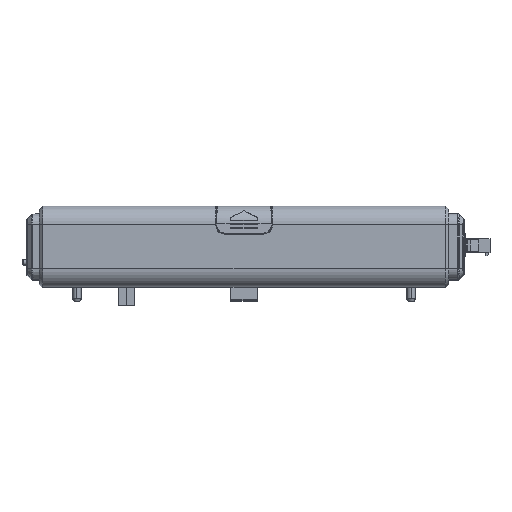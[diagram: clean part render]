
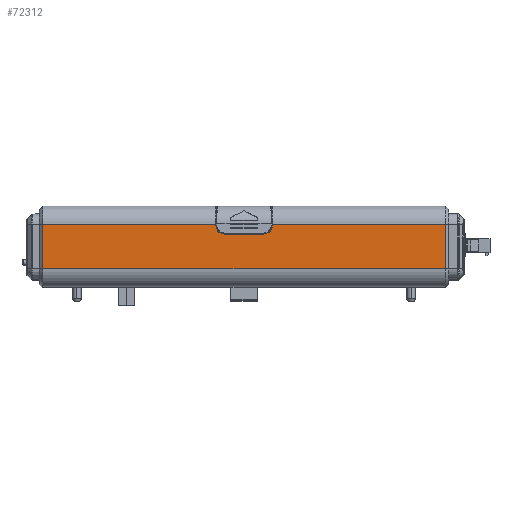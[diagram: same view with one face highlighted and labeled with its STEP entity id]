
A CAD part, top view. The second image highlights one B-rep face of the part: STEP entity #72312.
In plain terms, the highlighted planar face has unit normal (0, 0, 1).
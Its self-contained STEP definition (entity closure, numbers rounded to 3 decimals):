
#13745=DIRECTION('',(0.,-1.,0.));
#13746=VECTOR('',#13745,16.);
#13747=CARTESIAN_POINT('',(145.8,120.2,196.));
#13748=LINE('',#13747,#13746);
#13749=DIRECTION('',(0.,-1.,0.));
#13750=VECTOR('',#13749,0.5);
#13751=CARTESIAN_POINT('',(63.4,120.2,196.));
#13752=LINE('',#13751,#13750);
#13753=CARTESIAN_POINT('',(66.4,119.7,196.));
#13754=DIRECTION('',(0.,0.,1.));
#13755=DIRECTION('',(-1.,0.,0.));
#13756=AXIS2_PLACEMENT_3D('',#13753,#13754,#13755);
#13758=DIRECTION('',(1.,0.,0.));
#13759=VECTOR('',#13758,14.2);
#13760=CARTESIAN_POINT('',(66.4,116.7,196.));
#13761=LINE('',#13760,#13759);
#13762=CARTESIAN_POINT('',(80.6,119.7,196.));
#13763=DIRECTION('',(0.,0.,1.));
#13764=DIRECTION('',(0.,-1.,0.));
#13765=AXIS2_PLACEMENT_3D('',#13762,#13763,#13764);
#13767=DIRECTION('',(0.,1.,0.));
#13768=VECTOR('',#13767,0.5);
#13769=CARTESIAN_POINT('',(83.6,119.7,196.));
#13770=LINE('',#13769,#13768);
#13780=DIRECTION('',(1.,0.,0.));
#13781=VECTOR('',#13780,144.6);
#13782=CARTESIAN_POINT('',(1.2,104.2,196.));
#13783=LINE('',#13782,#13781);
#13797=DIRECTION('',(0.,-1.,0.));
#13798=VECTOR('',#13797,16.);
#13799=CARTESIAN_POINT('',(1.2,120.2,196.));
#13800=LINE('',#13799,#13798);
#13850=DIRECTION('',(-1.,0.,0.));
#13851=VECTOR('',#13850,62.2);
#13852=CARTESIAN_POINT('',(63.4,120.2,196.));
#13853=LINE('',#13852,#13851);
#13867=DIRECTION('',(-1.,0.,0.));
#13868=VECTOR('',#13867,62.2);
#13869=CARTESIAN_POINT('',(145.8,120.2,196.));
#13870=LINE('',#13869,#13868);
#41085=CARTESIAN_POINT('',(145.8,120.2,196.));
#41086=VERTEX_POINT('',#41085);
#41089=CARTESIAN_POINT('',(145.8,104.2,196.));
#41090=VERTEX_POINT('',#41089);
#41521=CARTESIAN_POINT('',(83.6,120.2,196.));
#41522=VERTEX_POINT('',#41521);
#41548=CARTESIAN_POINT('',(63.4,120.2,196.));
#41549=CARTESIAN_POINT('',(63.4,119.7,196.));
#41550=VERTEX_POINT('',#41548);
#41551=VERTEX_POINT('',#41549);
#41625=CARTESIAN_POINT('',(80.6,116.7,196.));
#41626=VERTEX_POINT('',#41625);
#41627=CARTESIAN_POINT('',(83.6,119.7,196.));
#41628=VERTEX_POINT('',#41627);
#41629=CARTESIAN_POINT('',(66.4,116.7,196.));
#41630=VERTEX_POINT('',#41629);
#41631=CARTESIAN_POINT('',(1.2,104.2,196.));
#41632=VERTEX_POINT('',#41631);
#41633=CARTESIAN_POINT('',(1.2,120.2,196.));
#41634=VERTEX_POINT('',#41633);
#72290=CARTESIAN_POINT('',(73.5,112.2,196.));
#72291=DIRECTION('',(0.,0.,1.));
#72292=DIRECTION('',(0.,-1.,0.));
#72293=AXIS2_PLACEMENT_3D('',#72290,#72291,#72292);
#72294=PLANE('',#72293);
#72295=ORIENTED_EDGE('',*,*,#67033,.T.);
#72297=ORIENTED_EDGE('',*,*,#72296,.F.);
#72299=ORIENTED_EDGE('',*,*,#72298,.F.);
#72301=ORIENTED_EDGE('',*,*,#72300,.F.);
#72302=ORIENTED_EDGE('',*,*,#69424,.T.);
#72304=ORIENTED_EDGE('',*,*,#72303,.T.);
#72305=ORIENTED_EDGE('',*,*,#72282,.T.);
#72306=ORIENTED_EDGE('',*,*,#72271,.T.);
#72307=ORIENTED_EDGE('',*,*,#69370,.T.);
#72309=ORIENTED_EDGE('',*,*,#72308,.F.);
#72310=EDGE_LOOP('',(#72295,#72297,#72299,#72301,#72302,#72304,#72305,#72306,
#72307,#72309));
#72311=FACE_OUTER_BOUND('',#72310,.F.);
#72312=ADVANCED_FACE('',(#72311),#72294,.T.);
#13757=CIRCLE('',#13756,3.);
#13766=CIRCLE('',#13765,3.);
#67033=EDGE_CURVE('',#41086,#41090,#13748,.T.);
#69370=EDGE_CURVE('',#41628,#41522,#13770,.T.);
#69424=EDGE_CURVE('',#41550,#41551,#13752,.T.);
#72271=EDGE_CURVE('',#41626,#41628,#13766,.T.);
#72282=EDGE_CURVE('',#41630,#41626,#13761,.T.);
#72296=EDGE_CURVE('',#41632,#41090,#13783,.T.);
#72298=EDGE_CURVE('',#41634,#41632,#13800,.T.);
#72300=EDGE_CURVE('',#41550,#41634,#13853,.T.);
#72303=EDGE_CURVE('',#41551,#41630,#13757,.T.);
#72308=EDGE_CURVE('',#41086,#41522,#13870,.T.);
